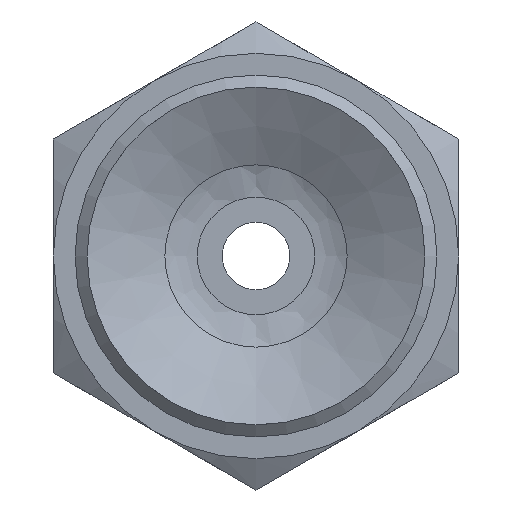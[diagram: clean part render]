
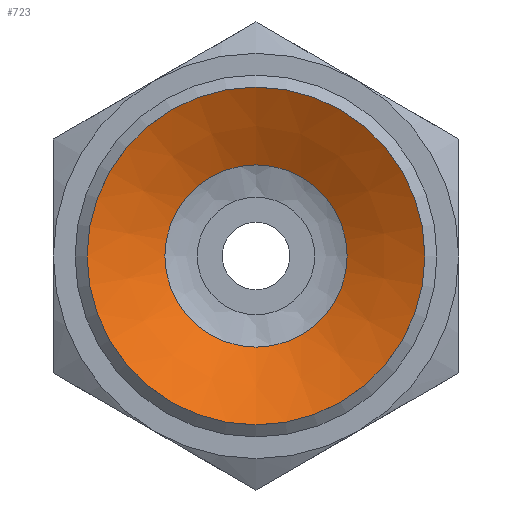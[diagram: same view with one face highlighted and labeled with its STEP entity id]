
A CAD part, front view. The second image highlights one B-rep face of the part: STEP entity #723.
In plain terms, the highlighted conical face has half-angle 61.39 degrees and reference radius 2.25 mm.
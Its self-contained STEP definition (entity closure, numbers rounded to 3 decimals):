
#723=ADVANCED_FACE('',(#1090,#1091),#1092,.F.);
#1090=FACE_BOUND('',#1460,.T.);
#1091=FACE_OUTER_BOUND('',#1461,.T.);
#1092=CONICAL_SURFACE('',#1462,2.25,1.071);
#1460=EDGE_LOOP('',(#2384));
#1461=EDGE_LOOP('',(#2385));
#1462=AXIS2_PLACEMENT_3D('',#2386,#2387,#2388);
#2384=ORIENTED_EDGE('',*,*,#2621,.T.);
#2385=ORIENTED_EDGE('',*,*,#2613,.T.);
#2386=CARTESIAN_POINT('',(0.0,1.5,0.0));
#2387=DIRECTION('',(-0.0,-1.0,0.));
#2388=DIRECTION('',(0.0,0.,-1.0));
#2613=EDGE_CURVE('',#3002,#3002,#3003,.T.);
#2621=EDGE_CURVE('',#3018,#3018,#3019,.T.);
#3002=VERTEX_POINT('',#3640);
#3003=CIRCLE('',#3641,5.);
#3018=VERTEX_POINT('',#3656);
#3019=CIRCLE('',#3657,2.698);
#3640=CARTESIAN_POINT('',(0.0,0.,-5.));
#3641=AXIS2_PLACEMENT_3D('',#4032,#4033,#4034);
#3656=CARTESIAN_POINT('',(0.0,1.256,-2.698));
#3657=AXIS2_PLACEMENT_3D('',#4056,#4057,#4058);
#4032=CARTESIAN_POINT('',(0.0,0.0,0.0));
#4033=DIRECTION('',(0.0,-1.0,0.));
#4034=DIRECTION('',(0.0,0.,-1.0));
#4056=CARTESIAN_POINT('',(0.0,1.256,0.0));
#4057=DIRECTION('',(0.0,1.0,0.));
#4058=DIRECTION('',(0.0,0.,-1.0));
